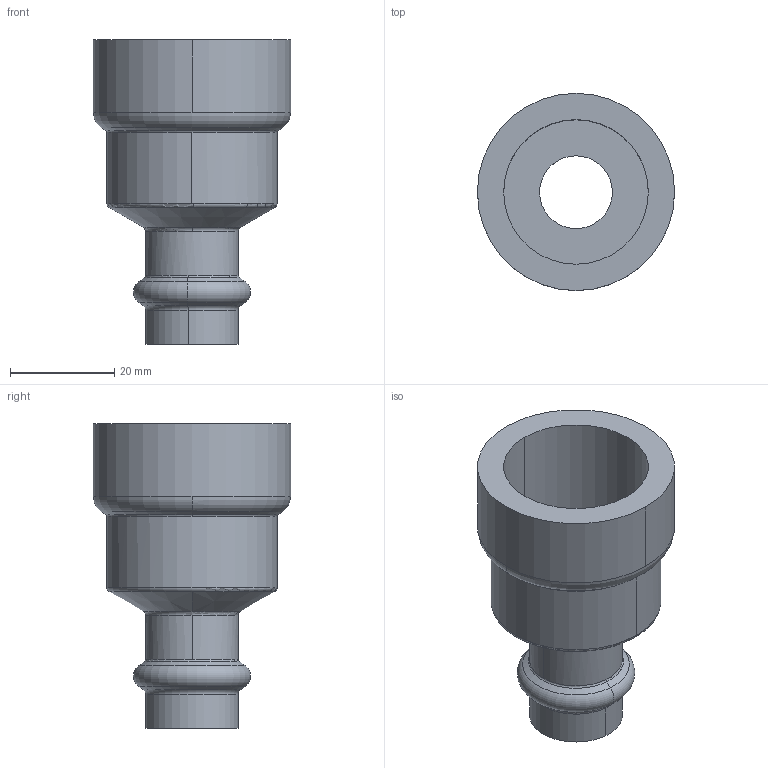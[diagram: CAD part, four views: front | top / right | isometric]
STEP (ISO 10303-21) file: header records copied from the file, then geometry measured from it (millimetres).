
FILE_DESCRIPTION(('Creo Elements/Direct Modeling STEP Export'),'2;1');
FILE_NAME('C9440_3-4_15.stp','2020-07-20T11:01:39',(''),(''),'PTC Creo Elements/Direct Modeling STEP processor for AP214 (Solid Model)','PTC Creo Elements/Direct Modeling 19.0C 15-Aug-2015 (C) Parametric Technology GmbH','');
FILE_SCHEMA(('AUTOMOTIVE_DESIGN { 1 0 10303 214 1 1 1 1 }'));
Length unit declared in the file: millimetre
Products named in the file (2): C9440_3-4_15
Assembly tree (1 placements, depth 2):
  C9440_3-4_15
    C9440_3-4_15
Bounding box: 37.9 x 37.9 x 58.48 mm (x, y, z)
Volume: 15842.5 mm3; surface area: 10882.2 mm2
Topology: 1 solids, 1 shells, 40 faces, 98 edges, 62 vertices
Faces by surface type: cylinder 14, torus 14, cone 8, plane 4
Entity records: 1067 total; most frequent: ORIENTED_EDGE 196, DIRECTION 178, CARTESIAN_POINT 162, EDGE_CURVE 98, AXIS2_PLACEMENT_3D 78, VERTEX_POINT 62, EDGE_LOOP 44, FACE_OUTER_BOUND 40
